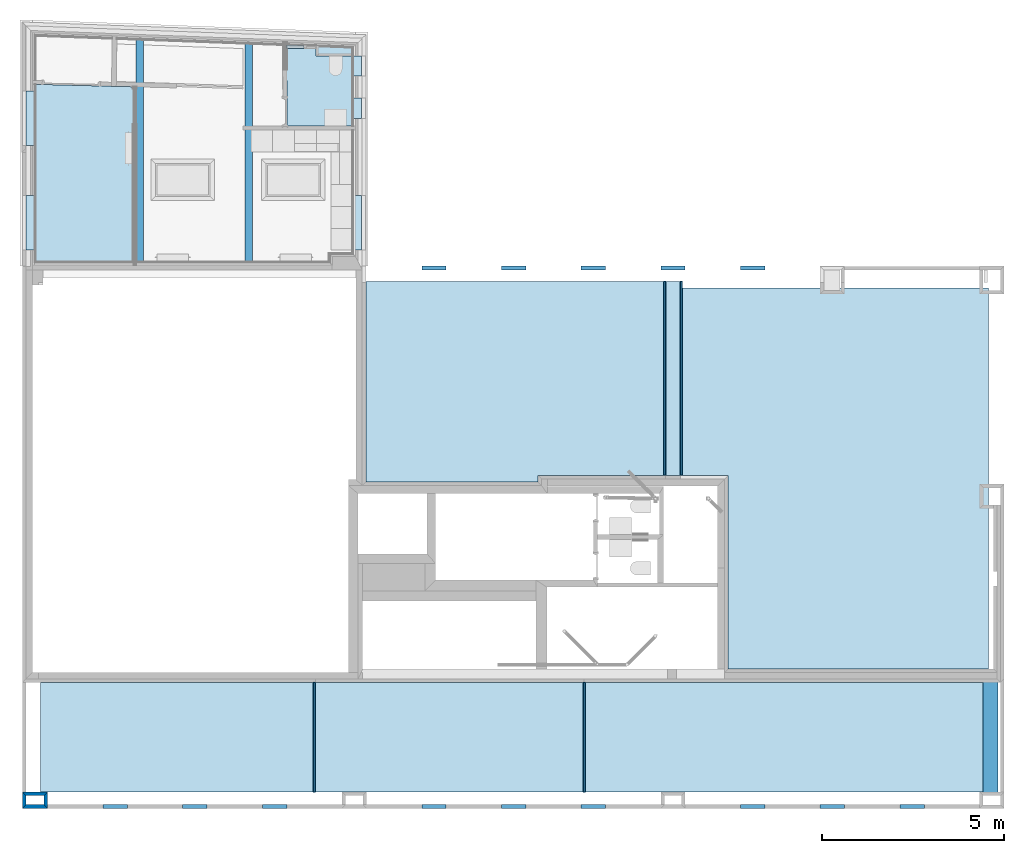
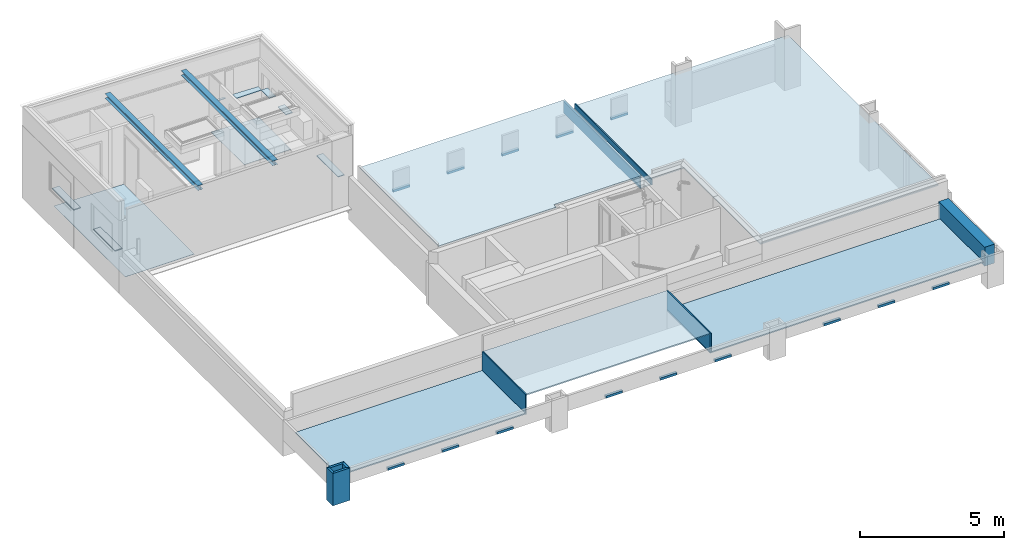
# One storey, part 1 of 22: 34 slabs, 4 walls, 2 beams.
"""IFC2X3 building model written with IfcOpenShell, lengths in metres."""

from ifc_helpers import new_model, entity, si_unit, converted_unit, derived_unit, money_unit, direction, frame, origin_with_axes, place, context, subcontext, project, spatial, polyline, outline, extrude, faceted_brep, material, layer, layer_set, layer_usage, type_object, element, save


model = new_model("IFC2X3")

# Units and contexts
model_context = context("Model", 3, precision=1e-05, world=origin_with_axes(), true_north=direction((0.0, 1.0)))
body_context = subcontext(model_context, "Body", "Model", "MODEL_VIEW", scale=1.0)
ifc_project = project(units=[si_unit("LENGTHUNIT", "METRE"), si_unit("AREAUNIT", "SQUARE_METRE"), si_unit("VOLUMEUNIT", "CUBIC_METRE"), si_unit("ABSORBEDDOSEUNIT", "GRAY"), si_unit("AMOUNTOFSUBSTANCEUNIT", "MOLE"), si_unit("DOSEEQUIVALENTUNIT", "SIEVERT"), si_unit("ELECTRICCAPACITANCEUNIT", "FARAD"), si_unit("ELECTRICCHARGEUNIT", "COULOMB"), si_unit("ELECTRICCONDUCTANCEUNIT", "SIEMENS"), si_unit("ELECTRICCURRENTUNIT", "AMPERE"), si_unit("ELECTRICRESISTANCEUNIT", "OHM"), si_unit("ELECTRICVOLTAGEUNIT", "VOLT"), si_unit("ENERGYUNIT", "JOULE"), si_unit("FORCEUNIT", "NEWTON"), si_unit("FREQUENCYUNIT", "HERTZ"), si_unit("ILLUMINANCEUNIT", "LUX"), si_unit("INDUCTANCEUNIT", "HENRY"), si_unit("LUMINOUSFLUXUNIT", "LUMEN"), si_unit("LUMINOUSINTENSITYUNIT", "CANDELA"), si_unit("MAGNETICFLUXDENSITYUNIT", "TESLA"), si_unit("MAGNETICFLUXUNIT", "WEBER"), si_unit("MASSUNIT", "GRAM"), converted_unit("PLANEANGLEUNIT", "degree", entity("IfcReal", 0.0174532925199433), si_unit("PLANEANGLEUNIT", "RADIAN"), dimensions=[0, 0, 0, 0, 0, 0, 0]), si_unit("POWERUNIT", "WATT"), si_unit("PRESSUREUNIT", "PASCAL"), si_unit("RADIOACTIVITYUNIT", "BECQUEREL"), si_unit("SOLIDANGLEUNIT", "STERADIAN"), si_unit("THERMODYNAMICTEMPERATUREUNIT", "KELVIN"), si_unit("TIMEUNIT", "SECOND"), derived_unit("ACCELERATIONUNIT", [(si_unit("LENGTHUNIT", "METRE"), 1), (si_unit("TIMEUNIT", "SECOND"), -2)]), derived_unit("ANGULARVELOCITYUNIT", [(converted_unit("PLANEANGLEUNIT", "degree", entity("IfcReal", 0.0174532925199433), si_unit("PLANEANGLEUNIT", "RADIAN"), dimensions=[0, 0, 0, 0, 0, 0, 0]), 1), (si_unit("TIMEUNIT", "SECOND"), -1)]), derived_unit("CURVATUREUNIT", [(converted_unit("PLANEANGLEUNIT", "degree", entity("IfcReal", 0.0174532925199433), si_unit("PLANEANGLEUNIT", "RADIAN"), dimensions=[0, 0, 0, 0, 0, 0, 0]), 1), (si_unit("LENGTHUNIT", "METRE"), -1)]), derived_unit("DYNAMICVISCOSITYUNIT", [(si_unit("PRESSUREUNIT", "PASCAL"), 1), (si_unit("TIMEUNIT", "SECOND"), 1)]), derived_unit("HEATFLUXDENSITYUNIT", [(si_unit("POWERUNIT", "WATT"), 1), (si_unit("LENGTHUNIT", "METRE"), -2)]), derived_unit("HEATINGVALUEUNIT", [(si_unit("ENERGYUNIT", "JOULE"), 1), (si_unit("MASSUNIT", "GRAM"), -1)]), derived_unit("INTEGERCOUNTRATEUNIT", [(si_unit("TIMEUNIT", "SECOND"), -1)]), derived_unit("IONCONCENTRATIONUNIT", [(si_unit("MASSUNIT", "GRAM"), 1), (si_unit("VOLUMEUNIT", "CUBIC_METRE"), -1)]), derived_unit("ISOTHERMALMOISTURECAPACITYUNIT", [(si_unit("VOLUMEUNIT", "CUBIC_METRE"), 1), (si_unit("MASSUNIT", "GRAM"), -1)]), derived_unit("KINEMATICVISCOSITYUNIT", [(si_unit("AREAUNIT", "SQUARE_METRE"), 1), (si_unit("TIMEUNIT", "SECOND"), -1)]), derived_unit("LINEARFORCEUNIT", [(si_unit("FORCEUNIT", "NEWTON"), 1), (si_unit("LENGTHUNIT", "METRE"), -1)]), derived_unit("LINEARMOMENTUNIT", [(si_unit("FORCEUNIT", "NEWTON"), 1), (si_unit("LENGTHUNIT", "METRE"), -1)]), derived_unit("LINEARSTIFFNESSUNIT", [(si_unit("FORCEUNIT", "NEWTON"), 1), (si_unit("LENGTHUNIT", "METRE"), -1)]), derived_unit("LINEARVELOCITYUNIT", [(si_unit("LENGTHUNIT", "METRE"), 1), (si_unit("TIMEUNIT", "SECOND"), -1)]), derived_unit("LUMINOUSINTENSITYDISTRIBUTIONUNIT", [(si_unit("LUMINOUSINTENSITYUNIT", "CANDELA"), 1), (si_unit("LUMINOUSFLUXUNIT", "LUMEN"), -1)]), derived_unit("MASSDENSITYUNIT", [(si_unit("MASSUNIT", "GRAM"), 1), (si_unit("VOLUMEUNIT", "CUBIC_METRE"), -1)]), derived_unit("MASSFLOWRATEUNIT", [(si_unit("MASSUNIT", "GRAM"), 1), (si_unit("TIMEUNIT", "SECOND"), -1)]), derived_unit("MASSPERLENGTHUNIT", [(si_unit("MASSUNIT", "GRAM"), 1), (si_unit("LENGTHUNIT", "METRE"), -1)]), derived_unit("MODULUSOFELASTICITYUNIT", [(si_unit("FORCEUNIT", "NEWTON"), 1), (si_unit("AREAUNIT", "SQUARE_METRE"), -1)]), derived_unit("MODULUSOFLINEARSUBGRADEREACTIONUNIT", [(si_unit("FORCEUNIT", "NEWTON"), 1), (si_unit("LENGTHUNIT", "METRE"), -2)]), derived_unit("MODULUSOFROTATIONALSUBGRADEREACTIONUNIT", [(si_unit("FORCEUNIT", "NEWTON"), 1), (si_unit("LENGTHUNIT", "METRE"), 1)]), derived_unit("MODULUSOFSUBGRADEREACTIONUNIT", [(si_unit("FORCEUNIT", "NEWTON"), 1), (si_unit("VOLUMEUNIT", "CUBIC_METRE"), -1)]), derived_unit("MOISTUREDIFFUSIVITYUNIT", [(si_unit("VOLUMEUNIT", "CUBIC_METRE"), 1), (si_unit("TIMEUNIT", "SECOND"), -1)]), derived_unit("MOLECULARWEIGHTUNIT", [(si_unit("MASSUNIT", "GRAM"), 1), (si_unit("AMOUNTOFSUBSTANCEUNIT", "MOLE"), -1)]), derived_unit("PLANARFORCEUNIT", [(si_unit("FORCEUNIT", "NEWTON"), 1), (si_unit("LENGTHUNIT", "METRE"), -2)]), derived_unit("ROTATIONALFREQUENCYUNIT", [(si_unit("TIMEUNIT", "SECOND"), -1)]), derived_unit("ROTATIONALMASSUNIT", [(si_unit("MASSUNIT", "GRAM"), 1), (si_unit("LENGTHUNIT", "METRE"), 2)]), derived_unit("ROTATIONALSTIFFNESSUNIT", [(si_unit("FORCEUNIT", "NEWTON"), 1), (si_unit("LENGTHUNIT", "METRE"), 1), (converted_unit("PLANEANGLEUNIT", "degree", entity("IfcReal", 0.0174532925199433), si_unit("PLANEANGLEUNIT", "RADIAN"), dimensions=[0, 0, 0, 0, 0, 0, 0]), -1)]), derived_unit("SECTIONAREAINTEGRALUNIT", [(si_unit("LENGTHUNIT", "METRE"), 5)]), derived_unit("SECTIONMODULUSUNIT", [(si_unit("LENGTHUNIT", "METRE"), 3)]), derived_unit("SHEARMODULUSUNIT", [(si_unit("FORCEUNIT", "NEWTON"), 1), (si_unit("AREAUNIT", "SQUARE_METRE"), -1)]), derived_unit("SOUNDPOWERUNIT", [(si_unit("ENERGYUNIT", "JOULE"), 1), (si_unit("TIMEUNIT", "SECOND"), -1)]), derived_unit("SPECIFICHEATCAPACITYUNIT", [(si_unit("FORCEUNIT", "NEWTON"), 1), (si_unit("MASSUNIT", "GRAM"), -1), (si_unit("THERMODYNAMICTEMPERATUREUNIT", "KELVIN"), -1)]), derived_unit("TEMPERATUREGRADIENTUNIT", [(si_unit("THERMODYNAMICTEMPERATUREUNIT", "KELVIN"), 1), (si_unit("LENGTHUNIT", "METRE"), -1)]), derived_unit("THERMALADMITTANCEUNIT", [(si_unit("POWERUNIT", "WATT"), 1), (si_unit("AREAUNIT", "SQUARE_METRE"), -1), (si_unit("THERMODYNAMICTEMPERATUREUNIT", "KELVIN"), -1)]), derived_unit("THERMALCONDUCTANCEUNIT", [(si_unit("POWERUNIT", "WATT"), 1), (si_unit("LENGTHUNIT", "METRE"), -1), (si_unit("THERMODYNAMICTEMPERATUREUNIT", "KELVIN"), -1)]), derived_unit("THERMALEXPANSIONCOEFFICIENTUNIT", [(si_unit("THERMODYNAMICTEMPERATUREUNIT", "KELVIN"), -1)]), derived_unit("THERMALRESISTANCEUNIT", [(si_unit("AREAUNIT", "SQUARE_METRE"), 1), (si_unit("POWERUNIT", "WATT"), -1)]), derived_unit("THERMALTRANSMITTANCEUNIT", [(si_unit("POWERUNIT", "WATT"), 1), (si_unit("AREAUNIT", "SQUARE_METRE"), -1), (si_unit("THERMODYNAMICTEMPERATUREUNIT", "KELVIN"), -1)]), derived_unit("TORQUEUNIT", [(si_unit("FORCEUNIT", "NEWTON"), 1), (si_unit("LENGTHUNIT", "METRE"), 1)]), derived_unit("VAPORPERMEABILITYUNIT", [(si_unit("MASSUNIT", "GRAM"), 1), (si_unit("TIMEUNIT", "SECOND"), -1)]), derived_unit("VOLUMETRICFLOWRATEUNIT", [(si_unit("VOLUMEUNIT", "CUBIC_METRE"), 1), (si_unit("TIMEUNIT", "SECOND"), -1)]), derived_unit("WARPINGCONSTANTUNIT", [(si_unit("LENGTHUNIT", "METRE"), 6)]), derived_unit("WARPINGMOMENTUNIT", [(si_unit("FORCEUNIT", "NEWTON"), 1), (si_unit("LENGTHUNIT", "METRE"), 2)]), money_unit("GBP")], contexts=[model_context])

# Site, building, storey
site_placement = place(None, origin_with_axes())
site = spatial("IfcSite", under=ifc_project, at=site_placement, Name="Site", CompositionType="ELEMENT")
building_placement = place(site_placement, origin_with_axes())
building = spatial("IfcBuilding", under=site, at=building_placement, Name="Building01", CompositionType="ELEMENT")
storey_placement = place(building_placement, frame((0.0, 0.0, 2.6), z_axis=(0.0, 0.0, 1.0), x_axis=(1.0, 0.0, 0.0)))
storey = spatial("IfcBuildingStorey", under=building, at=storey_placement, Name="MF", CompositionType="ELEMENT", Elevation=2.6)

# Beams
ifc_material_1 = material(Name="A_BSUK_Beams_Steel")
beam_type = type_object("IfcBeamType", Name="A-Beams-Steel", PredefinedType="BEAM")
beam_1_placement = place(storey_placement, frame((6.327424, 14.800006, 3.3288), z_axis=(0.0, 1.0, 0.0), x_axis=(-1.0, 0.0, 0.0)))
element("IfcBeam", 1, at=beam_1_placement, inside=storey, type_object=beam_type, material=ifc_material_1, Name="A-Beams-Steel", ObjectType="A-Beams-Steel", context=body_context, shape_type="SweptSolid", body=[
    extrude(outline(polyline([(0.2036, 0.0), (0.2036, 0.011), (0.1054, 0.011), (0.1054, 0.1922), (0.2036, 0.1922), (0.2036, 0.2032), (0.0, 0.2032), (0.0, 0.1922), (0.0982, 0.1922), (0.0982, 0.011), (0.0, 0.011), (0.0, 0.0), (0.2036, 0.0)])), origin_with_axes(), (0.0, 0.0, 1.0), 6.356644),
])
beam_2_placement = place(storey_placement, frame((3.327424, 14.800006, 3.3288), z_axis=(0.0, 1.0, 0.0), x_axis=(-1.0, 0.0, 0.0)))
element("IfcBeam", 2, at=beam_2_placement, inside=storey, type_object=beam_type, material=ifc_material_1, Name="A-Beams-Steel", ObjectType="A-Beams-Steel", context=body_context, shape_type="SweptSolid", body=[
    extrude(outline(polyline([(0.2036, 0.0), (0.2036, 0.011), (0.1054, 0.011), (0.1054, 0.1922), (0.2036, 0.1922), (0.2036, 0.2032), (0.0, 0.2032), (0.0, 0.1922), (0.0982, 0.1922), (0.0982, 0.011), (0.0, 0.011), (0.0, 0.0), (0.2036, 0.0)])), origin_with_axes(), (0.0, 0.0, 1.0), 6.467779),
])

# Slabs
ifc_material_2 = material(Name="A_BSUK_Slabs")
slab_type = type_object("IfcSlabType", Name="A-FloorsSlabs A_BSUK_Slabs", PredefinedType="FLOOR")
placement = place(storey_placement, frame((0.0, 0.0, -2.6), z_axis=(0.0, 0.0, 1.0), x_axis=(1.0, 0.0, 0.0)))
element("IfcSlab", 3, at=placement, inside=storey, type_object=slab_type, material=ifc_material_2, Name="A-FloorsSlabs A_BSUK_Slabs", ObjectType="CompoundSlabLeaf", context=body_context, shape_type="Brep", body=[
    faceted_brep([(2.22, 0.0, 3.325), (2.22, 0.0, 3.425), (2.22, 0.100329, 3.425), (2.22, 0.100329, 3.325), (2.89, 0.0, 3.325), (2.89, 0.0, 3.425), (2.89, 0.1, 3.325), (2.89, 0.1, 3.425)], [[[0, 1, 2, 3]], [[4, 5, 1, 0]], [[6, 7, 5, 4]], [[3, 2, 7, 6]], [[1, 5, 7, 2]], [[3, 6, 4, 0]]]),
])
element("IfcSlab", 4, at=placement, inside=storey, type_object=slab_type, material=ifc_material_2, Name="A-FloorsSlabs A_BSUK_Slabs", ObjectType="CompoundSlabLeaf", context=body_context, shape_type="Brep", body=[
    faceted_brep([(4.41, 0.0, 3.325), (4.41, 0.0, 3.425), (4.41, 0.100329, 3.425), (4.41, 0.100329, 3.325), (5.08, 0.0, 3.325), (5.08, 0.0, 3.425), (5.08, 0.1, 3.325), (5.08, 0.1, 3.425)], [[[0, 1, 2, 3]], [[4, 5, 1, 0]], [[6, 7, 5, 4]], [[3, 2, 7, 6]], [[1, 5, 7, 2]], [[3, 6, 4, 0]]]),
])
element("IfcSlab", 5, at=placement, inside=storey, type_object=slab_type, material=ifc_material_2, Name="A-FloorsSlabs A_BSUK_Slabs", ObjectType="CompoundSlabLeaf", context=body_context, shape_type="Brep", body=[
    faceted_brep([(6.6, 0.0, 3.325), (6.6, 0.0, 3.425), (6.6, 0.100329, 3.425), (6.6, 0.100329, 3.325), (7.27, 0.0, 3.325), (7.27, 0.0, 3.425), (7.27, 0.1, 3.325), (7.27, 0.1, 3.425)], [[[0, 1, 2, 3]], [[4, 5, 1, 0]], [[6, 7, 5, 4]], [[3, 2, 7, 6]], [[1, 5, 7, 2]], [[3, 6, 4, 0]]]),
])
element("IfcSlab", 6, at=placement, inside=storey, type_object=slab_type, material=ifc_material_2, Name="A-FloorsSlabs A_BSUK_Slabs", ObjectType="CompoundSlabLeaf", context=body_context, shape_type="Brep", body=[
    faceted_brep([(10.98, 0.0, 3.325), (10.98, 0.0, 3.425), (10.98, 0.100329, 3.425), (10.98, 0.100329, 3.325), (11.65, 0.0, 3.325), (11.65, 0.0, 3.425), (11.65, 0.1, 3.325), (11.65, 0.1, 3.425)], [[[0, 1, 2, 3]], [[4, 5, 1, 0]], [[6, 7, 5, 4]], [[3, 2, 7, 6]], [[1, 5, 7, 2]], [[3, 6, 4, 0]]]),
])
element("IfcSlab", 7, at=placement, inside=storey, type_object=slab_type, material=ifc_material_2, Name="A-FloorsSlabs A_BSUK_Slabs", ObjectType="CompoundSlabLeaf", context=body_context, shape_type="Brep", body=[
    faceted_brep([(13.17, 0.0, 3.325), (13.17, 0.0, 3.425), (13.17, 0.100329, 3.425), (13.17, 0.100329, 3.325), (13.84, 0.0, 3.325), (13.84, 0.0, 3.425), (13.84, 0.1, 3.325), (13.84, 0.1, 3.425)], [[[0, 1, 2, 3]], [[4, 5, 1, 0]], [[6, 7, 5, 4]], [[3, 2, 7, 6]], [[1, 5, 7, 2]], [[3, 6, 4, 0]]]),
])
ifc_material_3 = material(Name="A_BSUK_ExpandedPolystyreneBoards")
element("IfcSlab", 8, at=placement, inside=storey, type_object=slab_type, material=ifc_material_3, Name="A-FloorsSlabs A_BSUK_Slabs", ObjectType="CompoundSlabLeaf", context=body_context, shape_type="Brep", body=[
    faceted_brep([(8.054094, 0.450128, 4.21), (8.054094, 0.450128, 4.26), (8.054094, 3.459213, 4.26), (8.054094, 3.459213, 4.21), (15.424099, 0.449338, 4.21), (15.424099, 0.449338, 4.26), (15.424099, 3.459213, 4.21), (15.424099, 3.459213, 4.26)], [[[0, 1, 2, 3]], [[4, 5, 1, 0]], [[6, 7, 5, 4]], [[3, 2, 7, 6]], [[1, 5, 7, 2]], [[3, 6, 4, 0]]]),
])
element("IfcSlab", 9, at=placement, inside=storey, type_object=slab_type, material=ifc_material_3, Name="A-FloorsSlabs A_BSUK_Slabs", ObjectType="CompoundSlabLeaf", context=body_context, shape_type="Brep", body=[
    faceted_brep([(0.5, 3.459213, 3.41), (0.5, 3.459213, 3.46), (8.054094, 3.459213, 3.46), (8.054094, 3.459213, 3.41), (0.5, 0.449667, 3.41), (0.5, 0.449667, 3.46), (8.054094, 0.449667, 3.41), (8.054094, 0.449667, 3.46)], [[[0, 1, 2, 3]], [[4, 5, 1, 0]], [[6, 7, 5, 4]], [[3, 2, 7, 6]], [[1, 5, 7, 2]], [[3, 6, 4, 0]]]),
])
element("IfcSlab", 10, at=placement, inside=storey, type_object=slab_type, material=ifc_material_3, Name="A-FloorsSlabs A_BSUK_Slabs", ObjectType="CompoundSlabLeaf", context=body_context, shape_type="Brep", body=[
    faceted_brep([(15.424099, 3.459213, 3.41), (15.424099, 3.459213, 3.46), (26.41, 3.459332, 3.46), (26.41, 3.459332, 3.41), (15.424099, 0.449338, 3.41), (15.424099, 0.449338, 3.46), (26.41, 0.44956, 3.41), (26.41, 0.44956, 3.46)], [[[0, 1, 2, 3]], [[4, 5, 1, 0]], [[6, 7, 5, 4]], [[3, 2, 7, 6]], [[1, 5, 7, 2]], [[3, 6, 4, 0]]]),
])
element("IfcSlab", 11, at=placement, inside=storey, type_object=slab_type, material=ifc_material_3, Name="A-FloorsSlabs A_BSUK_Slabs", ObjectType="CompoundSlabLeaf", context=body_context, shape_type="Brep", body=[
    faceted_brep([(8.004094, 3.459213, 3.46), (8.004094, 3.459213, 4.26), (8.054094, 3.459213, 4.26), (8.054094, 3.459213, 3.46), (8.004094, 0.449338, 3.46), (8.004094, 0.449338, 4.26), (8.054094, 0.449338, 3.46), (8.054094, 0.449338, 4.26)], [[[0, 1, 2, 3]], [[4, 5, 1, 0]], [[6, 7, 5, 4]], [[3, 2, 7, 6]], [[1, 5, 7, 2]], [[3, 6, 4, 0]]]),
])
element("IfcSlab", 12, at=placement, inside=storey, type_object=slab_type, material=ifc_material_2, Name="A-FloorsSlabs A_BSUK_Slabs", ObjectType="CompoundSlabLeaf", context=body_context, shape_type="Brep", body=[
    faceted_brep([(19.74, 14.799671, 3.099759), (19.74, 14.799671, 3.199759), (19.74, 14.9, 3.199759), (19.74, 14.9, 3.099759), (20.41, 14.8, 3.099759), (20.41, 14.8, 3.199759), (20.41, 14.9, 3.099759), (20.41, 14.9, 3.199759)], [[[0, 1, 2, 3]], [[4, 5, 1, 0]], [[6, 7, 5, 4]], [[3, 2, 7, 6]], [[1, 5, 7, 2]], [[3, 6, 4, 0]]]),
])
element("IfcSlab", 13, at=placement, inside=storey, type_object=slab_type, material=ifc_material_2, Name="A-FloorsSlabs A_BSUK_Slabs", ObjectType="CompoundSlabLeaf", context=body_context, shape_type="Brep", body=[
    faceted_brep([(17.55, 14.799671, 3.099759), (17.55, 14.799671, 3.199759), (17.55, 14.9, 3.199759), (17.55, 14.9, 3.099759), (18.22, 14.8, 3.099759), (18.22, 14.8, 3.199759), (18.22, 14.9, 3.099759), (18.22, 14.9, 3.199759)], [[[0, 1, 2, 3]], [[4, 5, 1, 0]], [[6, 7, 5, 4]], [[3, 2, 7, 6]], [[1, 5, 7, 2]], [[3, 6, 4, 0]]]),
])
element("IfcSlab", 14, at=placement, inside=storey, type_object=slab_type, material=ifc_material_2, Name="A-FloorsSlabs A_BSUK_Slabs", ObjectType="CompoundSlabLeaf", context=body_context, shape_type="Brep", body=[
    faceted_brep([(15.36, 14.799671, 3.099759), (15.36, 14.799671, 3.199759), (15.36, 14.9, 3.199759), (15.36, 14.9, 3.099759), (16.03, 14.8, 3.099759), (16.03, 14.8, 3.199759), (16.03, 14.9, 3.099759), (16.03, 14.9, 3.199759)], [[[0, 1, 2, 3]], [[4, 5, 1, 0]], [[6, 7, 5, 4]], [[3, 2, 7, 6]], [[1, 5, 7, 2]], [[3, 6, 4, 0]]]),
])
element("IfcSlab", 15, at=placement, inside=storey, type_object=slab_type, material=ifc_material_2, Name="A-FloorsSlabs A_BSUK_Slabs", ObjectType="CompoundSlabLeaf", context=body_context, shape_type="Brep", body=[
    faceted_brep([(13.17, 14.799671, 3.099759), (13.17, 14.799671, 3.199759), (13.17, 14.9, 3.199759), (13.17, 14.9, 3.099759), (13.84, 14.8, 3.099759), (13.84, 14.8, 3.199759), (13.84, 14.9, 3.099759), (13.84, 14.9, 3.199759)], [[[0, 1, 2, 3]], [[4, 5, 1, 0]], [[6, 7, 5, 4]], [[3, 2, 7, 6]], [[1, 5, 7, 2]], [[3, 6, 4, 0]]]),
])
element("IfcSlab", 16, at=placement, inside=storey, type_object=slab_type, material=ifc_material_2, Name="A-FloorsSlabs A_BSUK_Slabs", ObjectType="CompoundSlabLeaf", context=body_context, shape_type="Brep", body=[
    faceted_brep([(10.98, 14.799671, 3.099759), (10.98, 14.799671, 3.199759), (10.98, 14.9, 3.199759), (10.98, 14.9, 3.099759), (11.65, 14.8, 3.099759), (11.65, 14.8, 3.199759), (11.65, 14.9, 3.099759), (11.65, 14.9, 3.199759)], [[[0, 1, 2, 3]], [[4, 5, 1, 0]], [[6, 7, 5, 4]], [[3, 2, 7, 6]], [[1, 5, 7, 2]], [[3, 6, 4, 0]]]),
])
element("IfcSlab", 17, at=placement, inside=storey, type_object=slab_type, material=ifc_material_2, Name="A-FloorsSlabs A_BSUK_Slabs", ObjectType="CompoundSlabLeaf", context=body_context, shape_type="Brep", body=[
    faceted_brep([(15.36, 0.0, 3.325), (15.36, 0.0, 3.425), (15.36, 0.100329, 3.425), (15.36, 0.100329, 3.325), (16.03, 0.0, 3.325), (16.03, 0.0, 3.425), (16.03, 0.1, 3.325), (16.03, 0.1, 3.425)], [[[0, 1, 2, 3]], [[4, 5, 1, 0]], [[6, 7, 5, 4]], [[3, 2, 7, 6]], [[1, 5, 7, 2]], [[3, 6, 4, 0]]]),
])
element("IfcSlab", 18, at=placement, inside=storey, type_object=slab_type, material=ifc_material_2, Name="A-FloorsSlabs A_BSUK_Slabs", ObjectType="CompoundSlabLeaf", context=body_context, shape_type="Brep", body=[
    faceted_brep([(19.74, 0.0, 3.325), (19.74, 0.0, 3.425), (19.74, 0.100329, 3.425), (19.74, 0.100329, 3.325), (20.41, 0.0, 3.325), (20.41, 0.0, 3.425), (20.41, 0.1, 3.325), (20.41, 0.1, 3.425)], [[[0, 1, 2, 3]], [[4, 5, 1, 0]], [[6, 7, 5, 4]], [[3, 2, 7, 6]], [[1, 5, 7, 2]], [[3, 6, 4, 0]]]),
])
element("IfcSlab", 19, at=placement, inside=storey, type_object=slab_type, material=ifc_material_2, Name="A-FloorsSlabs A_BSUK_Slabs", ObjectType="CompoundSlabLeaf", context=body_context, shape_type="Brep", body=[
    faceted_brep([(21.93, 0.0, 3.325), (21.93, 0.0, 3.425), (21.93, 0.100329, 3.425), (21.93, 0.100329, 3.325), (22.6, 0.0, 3.325), (22.6, 0.0, 3.425), (22.6, 0.1, 3.325), (22.6, 0.1, 3.425)], [[[0, 1, 2, 3]], [[4, 5, 1, 0]], [[6, 7, 5, 4]], [[3, 2, 7, 6]], [[1, 5, 7, 2]], [[3, 6, 4, 0]]]),
])
element("IfcSlab", 20, at=placement, inside=storey, type_object=slab_type, material=ifc_material_2, Name="A-FloorsSlabs A_BSUK_Slabs", ObjectType="CompoundSlabLeaf", context=body_context, shape_type="Brep", body=[
    faceted_brep([(24.12, 0.0, 3.325), (24.12, 0.0, 3.425), (24.12, 0.100329, 3.425), (24.12, 0.100329, 3.325), (24.79, 0.0, 3.325), (24.79, 0.0, 3.425), (24.79, 0.1, 3.325), (24.79, 0.1, 3.425)], [[[0, 1, 2, 3]], [[4, 5, 1, 0]], [[6, 7, 5, 4]], [[3, 2, 7, 6]], [[1, 5, 7, 2]], [[3, 6, 4, 0]]]),
])
element("IfcSlab", 21, at=placement, inside=storey, type_object=slab_type, material=ifc_material_2, Name="A-FloorsSlabs A_BSUK_Slabs", ObjectType="CompoundSlabLeaf", context=body_context, shape_type="Brep", body=[
    faceted_brep([(26.81, 0.348679, 3.325), (26.81, 0.348679, 4.13), (26.41, 0.348679, 4.13), (26.41, 0.348679, 3.325), (26.81, 3.558962, 3.325), (26.81, 3.558962, 4.13), (26.41, 3.558962, 3.325), (26.41, 3.558962, 4.13)], [[[0, 1, 2, 3]], [[4, 5, 1, 0]], [[6, 7, 5, 4]], [[3, 2, 7, 6]], [[1, 5, 7, 2]], [[3, 6, 4, 0]]]),
])
element("IfcSlab", 22, at=placement, inside=storey, type_object=slab_type, material=ifc_material_3, Name="A-FloorsSlabs A_BSUK_Slabs", ObjectType="CompoundSlabLeaf", context=body_context, shape_type="Brep", body=[
    faceted_brep([(15.424099, 3.459213, 3.46), (15.424099, 3.459213, 4.26), (15.474099, 3.459213, 4.26), (15.474099, 3.459213, 3.46), (15.424099, 0.449338, 3.46), (15.424099, 0.449338, 4.26), (15.474099, 0.449338, 3.46), (15.474099, 0.449338, 4.26)], [[[0, 1, 2, 3]], [[4, 5, 1, 0]], [[6, 7, 5, 4]], [[3, 2, 7, 6]], [[1, 5, 7, 2]], [[3, 6, 4, 0]]]),
])
ifc_material_4 = material(Name="A_BSUK_Ceramic_WallTiles")
element("IfcSlab", 23, at=placement, inside=storey, type_object=slab_type, material=ifc_material_4, Name="A-FloorsSlabs A_BSUK_Slabs", ObjectType="CompoundSlabLeaf", context=body_context, shape_type="Brep", body=[
    faceted_brep([(7.264605, 20.87911, 4.535), (7.264605, 20.87911, 4.56), (7.263451, 20.984048, 4.56), (7.263451, 20.984048, 4.535), (7.748799, 20.87911, 4.535), (7.748799, 20.87911, 4.56), (7.748799, 20.966043, 4.535), (7.748799, 20.966043, 4.56)], [[[0, 1, 2, 3]], [[4, 5, 1, 0]], [[6, 7, 5, 4]], [[3, 2, 7, 6]], [[1, 5, 7, 2]], [[3, 6, 4, 0]]]),
])
element("IfcSlab", 24, at=placement, inside=storey, type_object=slab_type, material=ifc_material_4, Name="A-FloorsSlabs A_BSUK_Slabs", ObjectType="CompoundSlabLeaf", context=body_context, shape_type="Brep", body=[
    faceted_brep([(8.074417, 20.683903, 4.535), (8.074417, 20.683903, 4.56), (8.074417, 20.953963, 4.56), (8.074417, 20.953963, 4.535), (9.082265, 20.683903, 4.535), (9.082265, 20.683903, 4.56), (9.082265, 20.916574, 4.535), (9.082265, 20.916574, 4.56)], [[[0, 1, 2, 3]], [[4, 5, 1, 0]], [[6, 7, 5, 4]], [[3, 2, 7, 6]], [[1, 5, 7, 2]], [[3, 6, 4, 0]]]),
])
ifc_material_5 = material(Name="A_BSUK_Carpet-Pile")
element("IfcSlab", 25, at=placement, inside=storey, type_object=slab_type, material=ifc_material_5, Name="A-FloorsSlabs A_BSUK_Slabs", ObjectType="CompoundSlabLeaf", context=body_context, shape_type="Brep", body=[
    faceted_brep([(0.280897, 19.90157, 3.17), (0.280897, 19.90157, 3.182), (3.057414, 19.830392, 3.182), (3.057414, 19.830392, 3.17), (0.280777, 14.93, 3.17), (0.280777, 14.93, 3.182), (3.057414, 14.93, 3.17), (3.057414, 14.93, 3.182)], [[[0, 1, 2, 3]], [[4, 5, 1, 0]], [[6, 7, 5, 4]], [[3, 2, 7, 6]], [[1, 5, 7, 2]], [[3, 6, 4, 0]]]),
])
ifc_material_6 = material(Name="A_BSUK_Ceramic_FloorTiles")
element("IfcSlab", 26, at=placement, inside=storey, type_object=slab_type, material=ifc_material_6, Name="A-FloorsSlabs A_BSUK_Slabs", ObjectType="CompoundSlabLeaf", context=body_context, shape_type="Brep", body=[
    faceted_brep([(7.263451, 21.056086, 3.17), (7.263451, 21.056086, 3.182), (9.154265, 20.985941, 3.182), (9.154265, 20.985941, 3.17), (7.275966, 18.752607, 3.17), (7.275966, 18.752607, 3.182), (9.154265, 18.752607, 3.17), (9.154265, 18.752607, 3.182)], [[[0, 1, 2, 3]], [[4, 5, 1, 0]], [[6, 7, 5, 4]], [[3, 2, 7, 6]], [[1, 5, 7, 2]], [[3, 6, 4, 0]]]),
])
ifc_material_7 = material(Name="A_BSUK_Timber_Miscellaneous")
element("IfcSlab", 27, at=placement, inside=storey, type_object=slab_type, material=ifc_material_7, Name="A-FloorsSlabs A_BSUK_Slabs", ObjectType="CompoundSlabLeaf", context=body_context, shape_type="Brep", body=[
    faceted_brep([(9.067259, 20.683903, 4.535), (9.067259, 20.683903, 4.56), (9.329665, 20.683903, 4.56), (9.329665, 20.683903, 4.535), (9.067259, 20.123903, 4.535), (9.067259, 20.123903, 4.56), (9.329665, 20.123903, 4.535), (9.329665, 20.123903, 4.56)], [[[0, 1, 2, 3]], [[4, 5, 1, 0]], [[6, 7, 5, 4]], [[3, 2, 7, 6]], [[1, 5, 7, 2]], [[3, 6, 4, 0]]]),
])
element("IfcSlab", 28, at=placement, inside=storey, type_object=slab_type, material=ifc_material_7, Name="A-FloorsSlabs A_BSUK_Slabs", ObjectType="CompoundSlabLeaf", context=body_context, shape_type="Brep", body=[
    faceted_brep([(9.067259, 19.522294, 4.535), (9.067259, 19.522294, 4.56), (9.329665, 19.522294, 4.56), (9.329665, 19.522294, 4.535), (9.067259, 18.962294, 4.535), (9.067259, 18.962294, 4.56), (9.329665, 18.962294, 4.535), (9.329665, 18.962294, 4.56)], [[[0, 1, 2, 3]], [[4, 5, 1, 0]], [[6, 7, 5, 4]], [[3, 2, 7, 6]], [[1, 5, 7, 2]], [[3, 6, 4, 0]]]),
])
element("IfcSlab", 29, at=placement, inside=storey, type_object=slab_type, material=ifc_material_7, Name="A-FloorsSlabs A_BSUK_Slabs", ObjectType="CompoundSlabLeaf", context=body_context, shape_type="Brep", body=[
    faceted_brep([(9.067259, 16.84279, 4.085), (9.067259, 16.84279, 4.11), (9.329665, 16.84279, 4.11), (9.329665, 16.84279, 4.085), (9.067259, 15.34279, 4.085), (9.067259, 15.34279, 4.11), (9.329665, 15.34279, 4.085), (9.329665, 15.34279, 4.11)], [[[0, 1, 2, 3]], [[4, 5, 1, 0]], [[6, 7, 5, 4]], [[3, 2, 7, 6]], [[1, 5, 7, 2]], [[3, 6, 4, 0]]]),
])
element("IfcSlab", 30, at=placement, inside=storey, type_object=slab_type, material=ifc_material_7, Name="A-FloorsSlabs A_BSUK_Slabs", ObjectType="CompoundSlabLeaf", context=body_context, shape_type="Brep", body=[
    faceted_brep([(0.103554, 16.84279, 4.085), (0.103554, 16.84279, 4.11), (0.383679, 16.84279, 4.11), (0.383679, 16.84279, 4.085), (0.103554, 15.34279, 4.085), (0.103554, 15.34279, 4.11), (0.383679, 15.34279, 4.085), (0.383679, 15.34279, 4.11)], [[[0, 1, 2, 3]], [[4, 5, 1, 0]], [[6, 7, 5, 4]], [[3, 2, 7, 6]], [[1, 5, 7, 2]], [[3, 6, 4, 0]]]),
])
element("IfcSlab", 31, at=placement, inside=storey, type_object=slab_type, material=ifc_material_7, Name="A-FloorsSlabs A_BSUK_Slabs", ObjectType="CompoundSlabLeaf", context=body_context, shape_type="Brep", body=[
    faceted_brep([(0.103351, 19.714248, 4.085), (0.103351, 19.714248, 4.11), (0.383679, 19.714248, 4.11), (0.383679, 19.714248, 4.085), (0.103351, 18.214248, 4.085), (0.103351, 18.214248, 4.11), (0.383679, 18.214248, 4.085), (0.383679, 18.214248, 4.11)], [[[0, 1, 2, 3]], [[4, 5, 1, 0]], [[6, 7, 5, 4]], [[3, 2, 7, 6]], [[1, 5, 7, 2]], [[3, 6, 4, 0]]]),
])
element("IfcSlab", 32, at=placement, inside=storey, type_object=slab_type, material=ifc_material_3, Name="A-FloorsSlabs A_BSUK_Slabs", ObjectType="CompoundSlabLeaf", context=body_context, shape_type="Brep", body=[
    faceted_brep([(18.08494, 14.299834, 4.590745), (18.08494, 14.299834, 4.640745), (26.562239, 14.299999, 4.640745), (26.562239, 14.299999, 4.590745), (18.083237, 9.153143, 4.590745), (18.083237, 9.153143, 4.640745), (19.402975, 9.153044, 4.590745), (19.402975, 9.153044, 4.640745), (19.402776, 3.833852, 4.590745), (19.402776, 3.833852, 4.640745), (26.562239, 3.833852, 4.590745), (26.562239, 3.833852, 4.640745)], [[[0, 1, 2, 3]], [[4, 5, 1, 0]], [[6, 7, 5, 4]], [[8, 9, 7, 6]], [[10, 11, 9, 8]], [[3, 2, 11, 10]], [[1, 5, 7, 9, 11, 2]], [[3, 10, 8, 6, 4, 0]]]),
])
element("IfcSlab", 33, at=placement, inside=storey, type_object=slab_type, material=ifc_material_3, Name="A-FloorsSlabs A_BSUK_Slabs", ObjectType="CompoundSlabLeaf", context=body_context, shape_type="Brep", body=[
    faceted_brep([(17.685, 14.48, 4.35), (17.685, 14.48, 4.4), (18.085, 14.48, 4.4), (18.085, 14.48, 4.35), (17.685, 9.153143, 4.35), (17.685, 9.153143, 4.4), (18.085, 9.153143, 4.35), (18.085, 9.153143, 4.4)], [[[0, 1, 2, 3]], [[4, 5, 1, 0]], [[6, 7, 5, 4]], [[3, 2, 7, 6]], [[1, 5, 7, 2]], [[3, 6, 4, 0]]]),
])
element("IfcSlab", 34, at=placement, inside=storey, type_object=slab_type, material=ifc_material_3, Name="A-FloorsSlabs A_BSUK_Slabs", ObjectType="CompoundSlabLeaf", context=body_context, shape_type="Brep", body=[
    faceted_brep([(9.443038, 8.973018, 4.85), (9.443038, 8.973018, 4.9), (9.443038, 14.48, 4.9), (9.443038, 14.48, 4.85), (14.17234, 8.972665, 4.85), (14.17234, 8.972665, 4.9), (14.172354, 9.147854, 4.85), (14.172354, 9.147854, 4.9), (17.684602, 9.147591, 4.85), (17.684602, 9.147591, 4.9), (17.685, 14.48, 4.85), (17.685, 14.48, 4.9)], [[[0, 1, 2, 3]], [[4, 5, 1, 0]], [[6, 7, 5, 4]], [[8, 9, 7, 6]], [[10, 11, 9, 8]], [[3, 2, 11, 10]], [[1, 5, 7, 9, 11, 2]], [[3, 10, 8, 6, 4, 0]]]),
])
element("IfcSlab", 35, at=placement, inside=storey, type_object=slab_type, material=ifc_material_3, Name="A-FloorsSlabs A_BSUK_Slabs", ObjectType="CompoundSlabLeaf", context=body_context, shape_type="Brep", body=[
    faceted_brep([(18.13494, 14.48, 4.35), (18.08494, 14.48, 4.35), (18.08494, 14.48, 4.590745), (18.13494, 14.48, 4.590745), (18.13494, 9.153143, 4.35), (18.08494, 9.153143, 4.35), (18.13494, 9.153143, 4.590745), (18.08494, 9.153143, 4.590745)], [[[0, 1, 2, 3]], [[4, 5, 1, 0]], [[6, 7, 5, 4]], [[3, 2, 7, 6]], [[1, 5, 7, 2]], [[3, 6, 4, 0]]]),
])
element("IfcSlab", 36, at=placement, inside=storey, type_object=slab_type, material=ifc_material_3, Name="A-FloorsSlabs A_BSUK_Slabs", ObjectType="CompoundSlabLeaf", context=body_context, shape_type="Brep", body=[
    faceted_brep([(17.685, 14.48, 4.35), (17.635, 14.48, 4.35), (17.635, 14.48, 4.85), (17.685, 14.48, 4.85), (17.685, 9.153143, 4.35), (17.635, 9.153143, 4.35), (17.685, 9.153143, 4.85), (17.635, 9.153143, 4.85)], [[[0, 1, 2, 3]], [[4, 5, 1, 0]], [[6, 7, 5, 4]], [[3, 2, 7, 6]], [[1, 5, 7, 2]], [[3, 6, 4, 0]]]),
])

# Walls
ifc_material_8 = material(Name="A_BSUK_WallsExternal_Brick")
ifc_layer = layer(ifc_material_8, 0.1, ventilated=False)
ifc_layer_set = layer_set([ifc_layer])
ifc_layer_usage = layer_usage(ifc_layer_set, "AXIS2", "POSITIVE", 0.0)
wall_type = type_object("IfcWallType", Name="A-Walls-ExternalBrick", PredefinedType="NOTDEFINED")
wall_1_placement = place(storey_placement, frame((0.7, 0.0, 0.0), z_axis=(0.0, 0.0, 1.0), x_axis=(0.0, 1.0, 0.0)))
element("IfcWallStandardCase", 37, at=wall_1_placement, inside=storey, type_object=wall_type, material=ifc_layer_usage, Name="A-Walls-ExternalBrick", ObjectType="A-Walls-ExternalBrick", context=body_context, shape_type="SweptSolid", body=[
    extrude(outline(polyline([(0.349667, 0.1), (0.1, 0.1), (0.0, 0.0), (0.449667, 0.0), (0.349667, 0.1)])), origin_with_axes(), (0.0, 0.0, 1.0), 1.37),
])
wall_2_placement = place(storey_placement, frame((0.7, 0.449667, 0.0), z_axis=(0.0, 0.0, 1.0), x_axis=(-1.0, 0.0, 0.0)))
element("IfcWallStandardCase", 38, at=wall_2_placement, inside=storey, type_object=wall_type, material=ifc_layer_usage, Name="A-Walls-ExternalBrick", ObjectType="A-Walls-ExternalBrick", context=body_context, shape_type="SweptSolid", body=[
    extrude(outline(polyline([(0.599983, 0.1), (0.1, 0.1), (0.0, 0.0), (0.699983, 0.0), (0.599983, 0.1)])), origin_with_axes(), (0.0, 0.0, 1.0), 1.37),
])
wall_3_placement = place(storey_placement, frame((1.7e-05, 0.449667, 0.0), z_axis=(0.0, 0.0, 1.0), x_axis=(0.0, -1.0, 0.0)))
element("IfcWallStandardCase", 39, at=wall_3_placement, inside=storey, type_object=wall_type, material=ifc_layer_usage, Name="A-Walls-ExternalBrick", ObjectType="A-Walls-ExternalBrick", context=body_context, shape_type="SweptSolid", body=[
    extrude(outline(polyline([(0.349667, 0.1), (0.1, 0.1), (0.0, 0.0), (0.449667, 0.0), (0.349667, 0.1)])), origin_with_axes(), (0.0, 0.0, 1.0), 1.37),
])
wall_4_placement = place(storey_placement, frame((1.7e-05, 0.0, 0.0), z_axis=(0.0, 0.0, 1.0), x_axis=(1.0, 0.0, 0.0)))
element("IfcWallStandardCase", 40, at=wall_4_placement, inside=storey, type_object=wall_type, material=ifc_layer_usage, Name="A-Walls-ExternalBrick", ObjectType="A-Walls-ExternalBrick", context=body_context, shape_type="SweptSolid", body=[
    extrude(outline(polyline([(0.599983, 0.1), (0.1, 0.1), (0.0, 0.0), (0.699983, 0.0), (0.599983, 0.1)])), origin_with_axes(), (0.0, 0.0, 1.0), 1.37),
])

save(model, "model.ifc")
